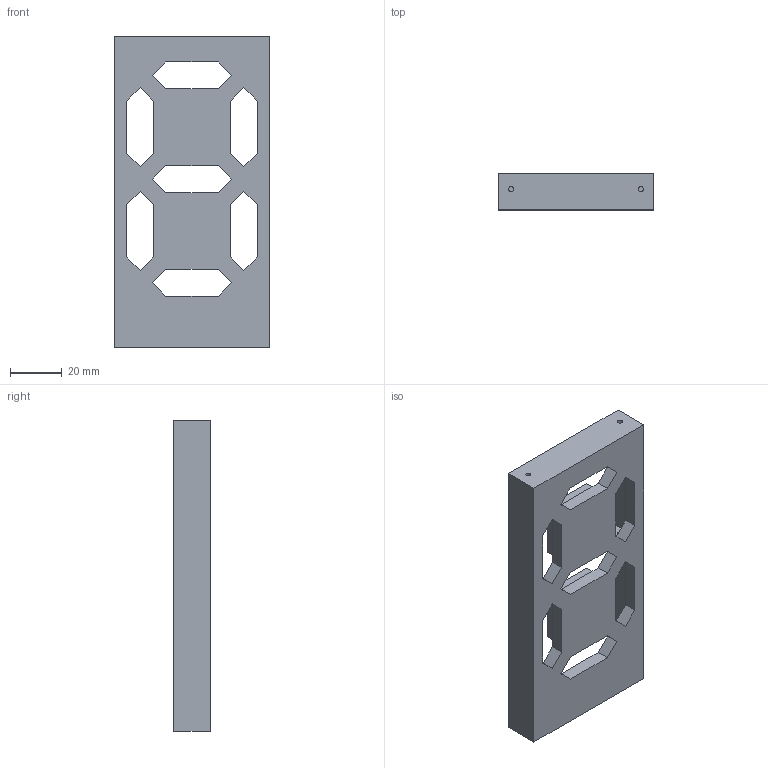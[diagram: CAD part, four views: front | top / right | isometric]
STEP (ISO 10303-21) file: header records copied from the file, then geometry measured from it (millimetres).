
FILE_DESCRIPTION(/* description */ ('STEP AP242','CAx-IF Rec.Pracs.---Representation and Presentation of Product Manufacturing Information (PMI)---4.0---2014-10-13','CAx-IF Rec.Pracs.---3D Tessellated Geometry---0.4---2014-09-14','2;1'),/* implementation_level */ '2;1');
FILE_NAME(/* name */ 'Part Studio 1 - Front Box',/* time_stamp */ '2025-09-04T05:47:28Z',/* author */ (''),/* organization */ (''),/* preprocessor_version */ 'ST-DEVELOPER v20',/* originating_system */ 'ONSHAPE BY PTC INC, 1.203',/* authorisation */ ' ');
FILE_SCHEMA (('AP242_MANAGED_MODEL_BASED_3D_ENGINEERING_MIM_LF { 1 0 10303 442 1 1 4 }'));
Length unit declared in the file: metre
Products named in the file (1): Front Box
Bounding box: 60 x 14 x 120 mm (x, y, z)
Volume: 28311.7 mm3; surface area: 27801.4 mm2
Topology: 1 solids, 1 shells, 200 faces, 558 edges, 372 vertices
Faces by surface type: plane 186, cylinder 14
Full cylindrical faces by diameter (mm): 2 x8
Entity records: 6340 total; most frequent: CARTESIAN_POINT 1123, ORIENTED_EDGE 1100, DIRECTION 984, EDGE_CURVE 550, LINE 518, VECTOR 518, VERTEX_POINT 372, EDGE_LOOP 242
